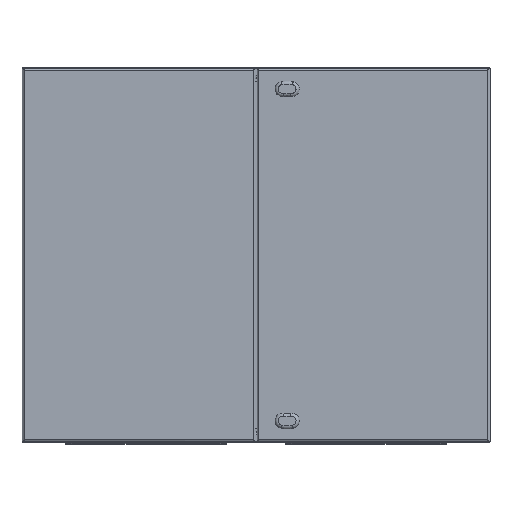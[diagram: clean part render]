
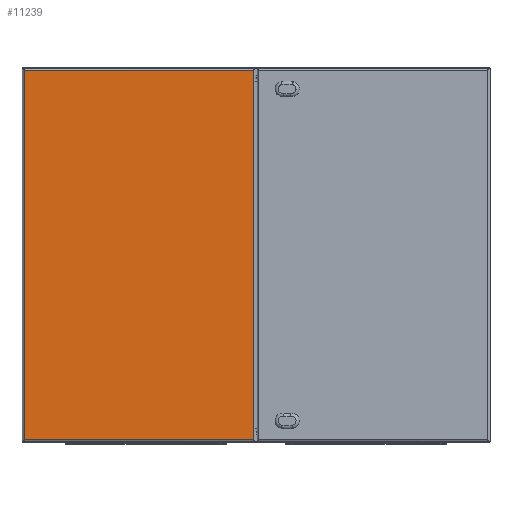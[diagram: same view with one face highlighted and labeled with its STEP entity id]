
A CAD part, top view. The second image highlights one B-rep face of the part: STEP entity #11239.
In plain terms, the highlighted planar face has unit normal (0, 0, 1) as drawn and (0, -1, 0) by its records, which use the part's own axes.
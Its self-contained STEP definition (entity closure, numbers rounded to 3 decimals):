
#713=LINE('',#17803,#1435);
#714=LINE('',#17806,#1436);
#715=LINE('',#17808,#1437);
#716=LINE('',#17810,#1438);
#1435=VECTOR('',#14215,1000.);
#1436=VECTOR('',#14216,1000.);
#1437=VECTOR('',#14217,1000.);
#1438=VECTOR('',#14218,1000.);
#2659=ORIENTED_EDGE('',*,*,#5273,.F.);
#2660=ORIENTED_EDGE('',*,*,#5274,.F.);
#2661=ORIENTED_EDGE('',*,*,#5275,.T.);
#2662=ORIENTED_EDGE('',*,*,#5276,.T.);
#5273=EDGE_CURVE('',#6647,#6648,#713,.F.);
#5274=EDGE_CURVE('',#6649,#6647,#714,.T.);
#5275=EDGE_CURVE('',#6649,#6650,#715,.F.);
#5276=EDGE_CURVE('',#6650,#6648,#716,.T.);
#6647=VERTEX_POINT('',#17804);
#6648=VERTEX_POINT('',#17805);
#6649=VERTEX_POINT('',#17807);
#6650=VERTEX_POINT('',#17809);
#8439=EDGE_LOOP('',(#2659,#2660,#2661,#2662));
#9751=FACE_BOUND('',#8439,.T.);
#10844=PLANE('',#12189);
#11239=ADVANCED_FACE('',(#9751),#10844,.F.);
#12189=AXIS2_PLACEMENT_3D('',#17802,#14213,#14214);
#14213=DIRECTION('',(0.,1.,0.));
#14214=DIRECTION('',(0.,0.,1.));
#14215=DIRECTION('',(0.,0.,-1.));
#14216=DIRECTION('',(-1.,0.,0.));
#14217=DIRECTION('',(0.,0.,-1.));
#14218=DIRECTION('',(-1.,0.,0.));
#17802=CARTESIAN_POINT('',(0.,-17.,0.));
#17803=CARTESIAN_POINT('',(-245.,-17.,400.));
#17804=CARTESIAN_POINT('',(-245.,-17.,-395.));
#17805=CARTESIAN_POINT('',(-245.,-17.,395.));
#17806=CARTESIAN_POINT('',(250.,-17.,-395.));
#17807=CARTESIAN_POINT('',(245.,-17.,-395.));
#17808=CARTESIAN_POINT('',(245.,-17.,400.));
#17809=CARTESIAN_POINT('',(245.,-17.,395.));
#17810=CARTESIAN_POINT('',(250.,-17.,395.));
